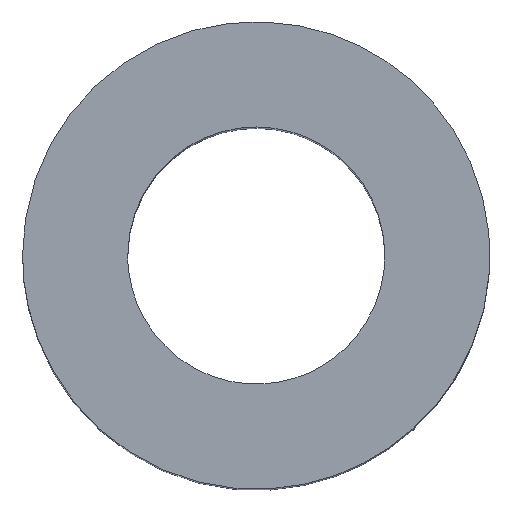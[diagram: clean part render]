
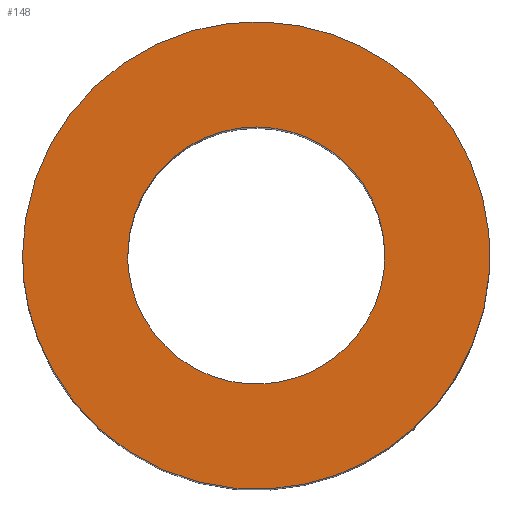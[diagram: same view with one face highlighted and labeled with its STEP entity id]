
A CAD part, top view. The second image highlights one B-rep face of the part: STEP entity #148.
In plain terms, the highlighted free-form (B-spline) face has degree [1, 1] with [2, 2] control points.
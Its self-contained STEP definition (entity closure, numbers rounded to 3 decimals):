
#115 = EDGE_CURVE('',#116,#116,#118,.T.);
#116 = VERTEX_POINT('',#117);
#117 = CARTESIAN_POINT('',(-3.,0.,9.));
#118 = ( BOUNDED_CURVE() B_SPLINE_CURVE(2,(#119,#120,#121,#122,#123,#124
,#125),.UNSPECIFIED.,.T.,.F.) B_SPLINE_CURVE_WITH_KNOTS((1,2,2,2,2,1),(
    -2.094,0.,2.094,4.189,6.283,
8.378),.UNSPECIFIED.) CURVE() GEOMETRIC_REPRESENTATION_ITEM() 
RATIONAL_B_SPLINE_CURVE((1.,0.5,1.,0.5,1.,0.5,1.)) REPRESENTATION_ITEM(
  '') );
#119 = CARTESIAN_POINT('',(-3.,0.,9.));
#120 = CARTESIAN_POINT('',(-3.,5.196,9.));
#121 = CARTESIAN_POINT('',(1.5,2.598,9.));
#122 = CARTESIAN_POINT('',(6.,0.,9.));
#123 = CARTESIAN_POINT('',(1.5,-2.598,9.));
#124 = CARTESIAN_POINT('',(-3.,-5.196,9.));
#125 = CARTESIAN_POINT('',(-3.,0.,9.));
#148 = ADVANCED_FACE('',(#149,#163),#166,.T.);
#149 = FACE_BOUND('',#150,.T.);
#150 = EDGE_LOOP('',(#151));
#151 = ORIENTED_EDGE('',*,*,#152,.T.);
#152 = EDGE_CURVE('',#153,#153,#155,.T.);
#153 = VERTEX_POINT('',#154);
#154 = CARTESIAN_POINT('',(-1.65,0.,9.));
#155 = ( BOUNDED_CURVE() B_SPLINE_CURVE(2,(#156,#157,#158,#159,#160,#161
,#162),.UNSPECIFIED.,.T.,.F.) B_SPLINE_CURVE_WITH_KNOTS((1,2,2,2,2,1),(
    -2.094,0.,2.094,4.189,6.283,
8.378),.UNSPECIFIED.) CURVE() GEOMETRIC_REPRESENTATION_ITEM() 
RATIONAL_B_SPLINE_CURVE((1.,0.5,1.,0.5,1.,0.5,1.)) REPRESENTATION_ITEM(
  '') );
#156 = CARTESIAN_POINT('',(-1.65,0.,9.));
#157 = CARTESIAN_POINT('',(-1.65,2.858,9.));
#158 = CARTESIAN_POINT('',(0.825,1.429,9.));
#159 = CARTESIAN_POINT('',(3.3,0.,9.));
#160 = CARTESIAN_POINT('',(0.825,-1.429,9.));
#161 = CARTESIAN_POINT('',(-1.65,-2.858,9.));
#162 = CARTESIAN_POINT('',(-1.65,0.,9.));
#163 = FACE_BOUND('',#164,.T.);
#164 = EDGE_LOOP('',(#165));
#165 = ORIENTED_EDGE('',*,*,#115,.F.);
#166 = B_SPLINE_SURFACE_WITH_KNOTS('',1,1,(
    (#167,#168)
    ,(#169,#170
  )),.UNSPECIFIED.,.F.,.F.,.F.,(2,2),(2,2),(0.,6.),(-3.,3.),
  .PIECEWISE_BEZIER_KNOTS.);
#167 = CARTESIAN_POINT('',(-3.,-3.,9.));
#168 = CARTESIAN_POINT('',(-3.,3.,9.));
#169 = CARTESIAN_POINT('',(3.,-3.,9.));
#170 = CARTESIAN_POINT('',(3.,3.,9.));
